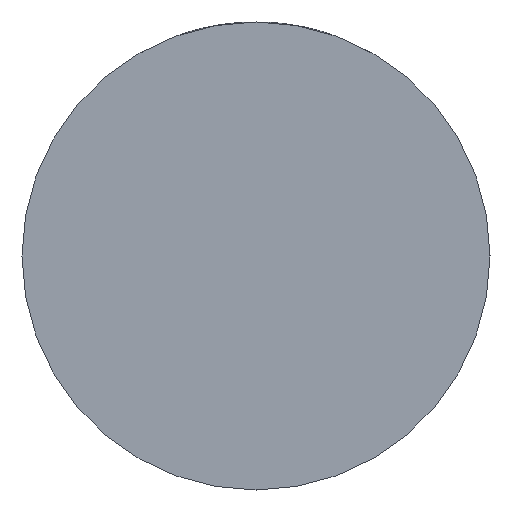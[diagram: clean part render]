
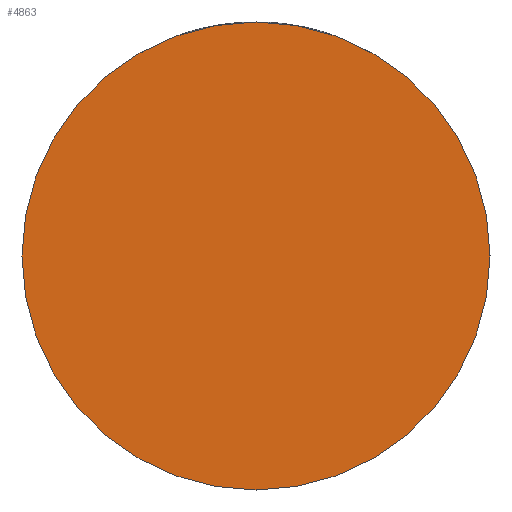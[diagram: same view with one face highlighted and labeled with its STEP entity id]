
A CAD part, front view. The second image highlights one B-rep face of the part: STEP entity #4863.
In plain terms, the highlighted planar face has unit normal (0, -1, 0).
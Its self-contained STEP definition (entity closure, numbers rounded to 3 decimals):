
#208 = CARTESIAN_POINT ( 'NONE',  ( 0., -21., 0. ) ) ;
#825 = FACE_OUTER_BOUND ( 'NONE', #3928, .T. ) ;
#1132 = EDGE_CURVE ( 'NONE', #4057, #1724, #3122, .T. ) ;
#1724 = VERTEX_POINT ( 'NONE', #4097 ) ;
#2123 = CIRCLE ( 'NONE', #5156, 34. ) ;
#2175 = EDGE_CURVE ( 'NONE', #1724, #4057, #2123, .T. ) ;
#2959 = AXIS2_PLACEMENT_3D ( 'NONE', #4514, #3262, #3728 ) ;
#3122 = CIRCLE ( 'NONE', #2959, 34. ) ;
#3262 = DIRECTION ( 'NONE',  ( 0., 1., 0. ) ) ;
#3339 = PLANE ( 'NONE',  #4226 ) ;
#3728 = DIRECTION ( 'NONE',  ( -1., 0., 0. ) ) ;
#3731 = CARTESIAN_POINT ( 'NONE',  ( 34., -21., 0. ) ) ;
#3928 = EDGE_LOOP ( 'NONE', ( #4366, #5225 ) ) ;
#4057 = VERTEX_POINT ( 'NONE', #3731 ) ;
#4097 = CARTESIAN_POINT ( 'NONE',  ( -34., -21., 0. ) ) ;
#4226 = AXIS2_PLACEMENT_3D ( 'NONE', #4614, #4665, #4590 ) ;
#4366 = ORIENTED_EDGE ( 'NONE', *, *, #2175, .F. ) ;
#4514 = CARTESIAN_POINT ( 'NONE',  ( 0., -21., 0. ) ) ;
#4590 = DIRECTION ( 'NONE',  ( 1., 0., 0. ) ) ;
#4614 = CARTESIAN_POINT ( 'NONE',  ( 0., -21., 0. ) ) ;
#4665 = DIRECTION ( 'NONE',  ( 0., -1., 0. ) ) ;
#4782 = DIRECTION ( 'NONE',  ( 0., 1., 0. ) ) ;
#4863 = ADVANCED_FACE ( 'NONE', ( #825 ), #3339, .T. ) ;
#5099 = DIRECTION ( 'NONE',  ( -1., 0., 0. ) ) ;
#5156 = AXIS2_PLACEMENT_3D ( 'NONE', #208, #4782, #5099 ) ;
#5225 = ORIENTED_EDGE ( 'NONE', *, *, #1132, .F. ) ;
